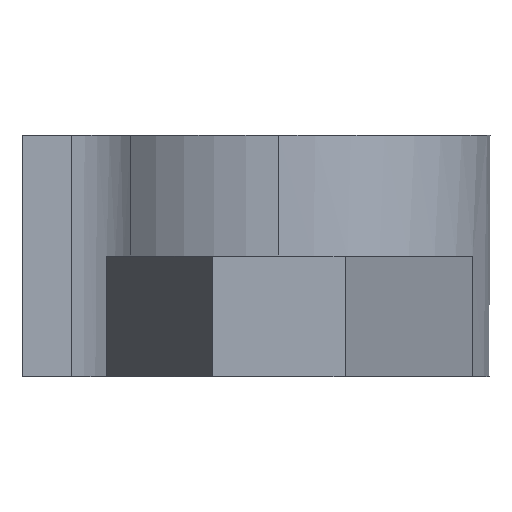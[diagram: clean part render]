
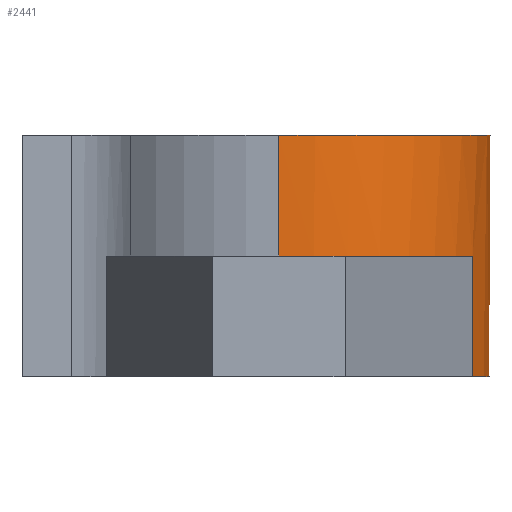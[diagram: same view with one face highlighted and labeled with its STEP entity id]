
A CAD part, left-side view. The second image highlights one B-rep face of the part: STEP entity #2441.
In plain terms, the highlighted cylindrical face has radius 14 mm (diameter 28 mm), a partial arc.
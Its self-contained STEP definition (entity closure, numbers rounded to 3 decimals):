
#45 = PLANE('',#46);
#46 = AXIS2_PLACEMENT_3D('',#47,#48,#49);
#47 = CARTESIAN_POINT('',(0.,3.032,16.));
#48 = DIRECTION('',(0.,0.,1.));
#49 = DIRECTION('',(1.,0.,-0.));
#106 = PLANE('',#107);
#107 = AXIS2_PLACEMENT_3D('',#108,#109,#110);
#108 = CARTESIAN_POINT('',(0.,3.032,0.));
#109 = DIRECTION('',(0.,0.,1.));
#110 = DIRECTION('',(1.,0.,-0.));
#334 = PLANE('',#335);
#335 = AXIS2_PLACEMENT_3D('',#336,#337,#338);
#336 = CARTESIAN_POINT('',(0.,0.,8.));
#337 = DIRECTION('',(0.,0.,1.));
#338 = DIRECTION('',(1.,0.,-0.));
#450 = PLANE('',#451);
#451 = AXIS2_PLACEMENT_3D('',#452,#453,#454);
#452 = CARTESIAN_POINT('',(0.,0.,8.));
#453 = DIRECTION('',(0.,0.,1.));
#454 = DIRECTION('',(1.,0.,-0.));
#490 = EDGE_CURVE('',#491,#493,#495,.T.);
#491 = VERTEX_POINT('',#492);
#492 = CARTESIAN_POINT('',(-14.,0.,16.));
#493 = VERTEX_POINT('',#494);
#494 = CARTESIAN_POINT('',(-14.,0.,8.));
#495 = SURFACE_CURVE('',#496,(#500,#512),.PCURVE_S1.);
#496 = LINE('',#497,#498);
#497 = CARTESIAN_POINT('',(-14.,0.,0.));
#498 = VECTOR('',#499,1.);
#499 = DIRECTION('',(-0.,-0.,-1.));
#500 = PCURVE('',#501,#506);
#501 = CYLINDRICAL_SURFACE('',#502,14.);
#502 = AXIS2_PLACEMENT_3D('',#503,#504,#505);
#503 = CARTESIAN_POINT('',(0.,0.,0.));
#504 = DIRECTION('',(0.,0.,1.));
#505 = DIRECTION('',(1.,0.,-0.));
#506 = DEFINITIONAL_REPRESENTATION('',(#507),#511);
#507 = LINE('',#508,#509);
#508 = CARTESIAN_POINT('',(3.142,0.));
#509 = VECTOR('',#510,1.);
#510 = DIRECTION('',(0.,-1.));
#511 = ( GEOMETRIC_REPRESENTATION_CONTEXT(2) 
PARAMETRIC_REPRESENTATION_CONTEXT() REPRESENTATION_CONTEXT('2D SPACE',''
  ) );
#512 = PCURVE('',#513,#518);
#513 = CYLINDRICAL_SURFACE('',#514,14.);
#514 = AXIS2_PLACEMENT_3D('',#515,#516,#517);
#515 = CARTESIAN_POINT('',(0.,0.,0.));
#516 = DIRECTION('',(0.,0.,1.));
#517 = DIRECTION('',(1.,0.,-0.));
#518 = DEFINITIONAL_REPRESENTATION('',(#519),#523);
#519 = LINE('',#520,#521);
#520 = CARTESIAN_POINT('',(3.142,0.));
#521 = VECTOR('',#522,1.);
#522 = DIRECTION('',(0.,-1.));
#523 = ( GEOMETRIC_REPRESENTATION_CONTEXT(2) 
PARAMETRIC_REPRESENTATION_CONTEXT() REPRESENTATION_CONTEXT('2D SPACE',''
  ) );
#606 = EDGE_CURVE('',#607,#609,#611,.T.);
#607 = VERTEX_POINT('',#608);
#608 = CARTESIAN_POINT('',(14.,0.,8.));
#609 = VERTEX_POINT('',#610);
#610 = CARTESIAN_POINT('',(14.,0.,16.));
#611 = SURFACE_CURVE('',#612,(#616,#628),.PCURVE_S1.);
#612 = LINE('',#613,#614);
#613 = CARTESIAN_POINT('',(14.,0.,0.));
#614 = VECTOR('',#615,1.);
#615 = DIRECTION('',(0.,0.,1.));
#616 = PCURVE('',#617,#622);
#617 = CYLINDRICAL_SURFACE('',#618,14.);
#618 = AXIS2_PLACEMENT_3D('',#619,#620,#621);
#619 = CARTESIAN_POINT('',(0.,0.,0.));
#620 = DIRECTION('',(0.,0.,1.));
#621 = DIRECTION('',(1.,0.,-0.));
#622 = DEFINITIONAL_REPRESENTATION('',(#623),#627);
#623 = LINE('',#624,#625);
#624 = CARTESIAN_POINT('',(0.,0.));
#625 = VECTOR('',#626,1.);
#626 = DIRECTION('',(0.,1.));
#627 = ( GEOMETRIC_REPRESENTATION_CONTEXT(2) 
PARAMETRIC_REPRESENTATION_CONTEXT() REPRESENTATION_CONTEXT('2D SPACE',''
  ) );
#628 = PCURVE('',#513,#629);
#629 = DEFINITIONAL_REPRESENTATION('',(#630),#634);
#630 = LINE('',#631,#632);
#631 = CARTESIAN_POINT('',(6.283,0.));
#632 = VECTOR('',#633,1.);
#633 = DIRECTION('',(0.,1.));
#634 = ( GEOMETRIC_REPRESENTATION_CONTEXT(2) 
PARAMETRIC_REPRESENTATION_CONTEXT() REPRESENTATION_CONTEXT('2D SPACE',''
  ) );
#2441 = ADVANCED_FACE('',(#2442),#513,.T.);
#2442 = FACE_BOUND('',#2443,.T.);
#2443 = EDGE_LOOP('',(#2444,#2445,#2471,#2472,#2496,#2524,#2548,#2576));
#2444 = ORIENTED_EDGE('',*,*,#606,.T.);
#2445 = ORIENTED_EDGE('',*,*,#2446,.T.);
#2446 = EDGE_CURVE('',#609,#491,#2447,.T.);
#2447 = SURFACE_CURVE('',#2448,(#2453,#2460),.PCURVE_S1.);
#2448 = CIRCLE('',#2449,14.);
#2449 = AXIS2_PLACEMENT_3D('',#2450,#2451,#2452);
#2450 = CARTESIAN_POINT('',(0.,0.,16.));
#2451 = DIRECTION('',(0.,0.,-1.));
#2452 = DIRECTION('',(1.,0.,0.));
#2453 = PCURVE('',#513,#2454);
#2454 = DEFINITIONAL_REPRESENTATION('',(#2455),#2459);
#2455 = LINE('',#2456,#2457);
#2456 = CARTESIAN_POINT('',(6.283,16.));
#2457 = VECTOR('',#2458,1.);
#2458 = DIRECTION('',(-1.,0.));
#2459 = ( GEOMETRIC_REPRESENTATION_CONTEXT(2) 
PARAMETRIC_REPRESENTATION_CONTEXT() REPRESENTATION_CONTEXT('2D SPACE',''
  ) );
#2460 = PCURVE('',#45,#2461);
#2461 = DEFINITIONAL_REPRESENTATION('',(#2462),#2470);
#2462 = ( BOUNDED_CURVE() B_SPLINE_CURVE(2,(#2463,#2464,#2465,#2466,
#2467,#2468,#2469),.UNSPECIFIED.,.T.,.F.) B_SPLINE_CURVE_WITH_KNOTS((1,2
    ,2,2,2,1),(-2.094,0.,2.094,4.189,
6.283,8.378),.UNSPECIFIED.) CURVE() 
GEOMETRIC_REPRESENTATION_ITEM() RATIONAL_B_SPLINE_CURVE((1.,0.5,1.,0.5,
1.,0.5,1.)) REPRESENTATION_ITEM('') );
#2463 = CARTESIAN_POINT('',(14.,-3.032));
#2464 = CARTESIAN_POINT('',(14.,-27.281));
#2465 = CARTESIAN_POINT('',(-7.,-15.157));
#2466 = CARTESIAN_POINT('',(-28.,-3.032));
#2467 = CARTESIAN_POINT('',(-7.,9.092));
#2468 = CARTESIAN_POINT('',(14.,21.216));
#2469 = CARTESIAN_POINT('',(14.,-3.032));
#2470 = ( GEOMETRIC_REPRESENTATION_CONTEXT(2) 
PARAMETRIC_REPRESENTATION_CONTEXT() REPRESENTATION_CONTEXT('2D SPACE',''
  ) );
#2471 = ORIENTED_EDGE('',*,*,#490,.T.);
#2472 = ORIENTED_EDGE('',*,*,#2473,.T.);
#2473 = EDGE_CURVE('',#493,#2474,#2476,.T.);
#2474 = VERTEX_POINT('',#2475);
#2475 = CARTESIAN_POINT('',(-5.58,-12.84,8.));
#2476 = SURFACE_CURVE('',#2477,(#2482,#2489),.PCURVE_S1.);
#2477 = CIRCLE('',#2478,14.);
#2478 = AXIS2_PLACEMENT_3D('',#2479,#2480,#2481);
#2479 = CARTESIAN_POINT('',(0.,0.,8.));
#2480 = DIRECTION('',(0.,0.,1.));
#2481 = DIRECTION('',(1.,0.,-0.));
#2482 = PCURVE('',#513,#2483);
#2483 = DEFINITIONAL_REPRESENTATION('',(#2484),#2488);
#2484 = LINE('',#2485,#2486);
#2485 = CARTESIAN_POINT('',(0.,8.));
#2486 = VECTOR('',#2487,1.);
#2487 = DIRECTION('',(1.,0.));
#2488 = ( GEOMETRIC_REPRESENTATION_CONTEXT(2) 
PARAMETRIC_REPRESENTATION_CONTEXT() REPRESENTATION_CONTEXT('2D SPACE',''
  ) );
#2489 = PCURVE('',#334,#2490);
#2490 = DEFINITIONAL_REPRESENTATION('',(#2491),#2495);
#2491 = CIRCLE('',#2492,14.);
#2492 = AXIS2_PLACEMENT_2D('',#2493,#2494);
#2493 = CARTESIAN_POINT('',(0.,0.));
#2494 = DIRECTION('',(1.,0.));
#2495 = ( GEOMETRIC_REPRESENTATION_CONTEXT(2) 
PARAMETRIC_REPRESENTATION_CONTEXT() REPRESENTATION_CONTEXT('2D SPACE',''
  ) );
#2496 = ORIENTED_EDGE('',*,*,#2497,.F.);
#2497 = EDGE_CURVE('',#2498,#2474,#2500,.T.);
#2498 = VERTEX_POINT('',#2499);
#2499 = CARTESIAN_POINT('',(-5.58,-12.84,0.));
#2500 = SURFACE_CURVE('',#2501,(#2505,#2512),.PCURVE_S1.);
#2501 = LINE('',#2502,#2503);
#2502 = CARTESIAN_POINT('',(-5.58,-12.84,4.));
#2503 = VECTOR('',#2504,1.);
#2504 = DIRECTION('',(0.,0.,1.));
#2505 = PCURVE('',#513,#2506);
#2506 = DEFINITIONAL_REPRESENTATION('',(#2507),#2511);
#2507 = LINE('',#2508,#2509);
#2508 = CARTESIAN_POINT('',(4.302,4.));
#2509 = VECTOR('',#2510,1.);
#2510 = DIRECTION('',(0.,1.));
#2511 = ( GEOMETRIC_REPRESENTATION_CONTEXT(2) 
PARAMETRIC_REPRESENTATION_CONTEXT() REPRESENTATION_CONTEXT('2D SPACE',''
  ) );
#2512 = PCURVE('',#2513,#2518);
#2513 = PLANE('',#2514);
#2514 = AXIS2_PLACEMENT_3D('',#2515,#2516,#2517);
#2515 = CARTESIAN_POINT('',(-15.29,-8.62,0.));
#2516 = DIRECTION('',(-0.399,-0.917,0.));
#2517 = DIRECTION('',(0.917,-0.399,0.));
#2518 = DEFINITIONAL_REPRESENTATION('',(#2519),#2523);
#2519 = LINE('',#2520,#2521);
#2520 = CARTESIAN_POINT('',(10.587,4.));
#2521 = VECTOR('',#2522,1.);
#2522 = DIRECTION('',(0.,1.));
#2523 = ( GEOMETRIC_REPRESENTATION_CONTEXT(2) 
PARAMETRIC_REPRESENTATION_CONTEXT() REPRESENTATION_CONTEXT('2D SPACE',''
  ) );
#2524 = ORIENTED_EDGE('',*,*,#2525,.T.);
#2525 = EDGE_CURVE('',#2498,#2526,#2528,.T.);
#2526 = VERTEX_POINT('',#2527);
#2527 = CARTESIAN_POINT('',(5.58,-12.84,0.));
#2528 = SURFACE_CURVE('',#2529,(#2534,#2541),.PCURVE_S1.);
#2529 = CIRCLE('',#2530,14.);
#2530 = AXIS2_PLACEMENT_3D('',#2531,#2532,#2533);
#2531 = CARTESIAN_POINT('',(0.,0.,0.));
#2532 = DIRECTION('',(0.,0.,1.));
#2533 = DIRECTION('',(1.,0.,-0.));
#2534 = PCURVE('',#513,#2535);
#2535 = DEFINITIONAL_REPRESENTATION('',(#2536),#2540);
#2536 = LINE('',#2537,#2538);
#2537 = CARTESIAN_POINT('',(0.,0.));
#2538 = VECTOR('',#2539,1.);
#2539 = DIRECTION('',(1.,0.));
#2540 = ( GEOMETRIC_REPRESENTATION_CONTEXT(2) 
PARAMETRIC_REPRESENTATION_CONTEXT() REPRESENTATION_CONTEXT('2D SPACE',''
  ) );
#2541 = PCURVE('',#106,#2542);
#2542 = DEFINITIONAL_REPRESENTATION('',(#2543),#2547);
#2543 = CIRCLE('',#2544,14.);
#2544 = AXIS2_PLACEMENT_2D('',#2545,#2546);
#2545 = CARTESIAN_POINT('',(0.,-3.032));
#2546 = DIRECTION('',(1.,0.));
#2547 = ( GEOMETRIC_REPRESENTATION_CONTEXT(2) 
PARAMETRIC_REPRESENTATION_CONTEXT() REPRESENTATION_CONTEXT('2D SPACE',''
  ) );
#2548 = ORIENTED_EDGE('',*,*,#2549,.T.);
#2549 = EDGE_CURVE('',#2526,#2550,#2552,.T.);
#2550 = VERTEX_POINT('',#2551);
#2551 = CARTESIAN_POINT('',(5.58,-12.84,8.));
#2552 = SURFACE_CURVE('',#2553,(#2557,#2564),.PCURVE_S1.);
#2553 = LINE('',#2554,#2555);
#2554 = CARTESIAN_POINT('',(5.58,-12.84,4.));
#2555 = VECTOR('',#2556,1.);
#2556 = DIRECTION('',(0.,0.,1.));
#2557 = PCURVE('',#513,#2558);
#2558 = DEFINITIONAL_REPRESENTATION('',(#2559),#2563);
#2559 = LINE('',#2560,#2561);
#2560 = CARTESIAN_POINT('',(5.122,4.));
#2561 = VECTOR('',#2562,1.);
#2562 = DIRECTION('',(0.,1.));
#2563 = ( GEOMETRIC_REPRESENTATION_CONTEXT(2) 
PARAMETRIC_REPRESENTATION_CONTEXT() REPRESENTATION_CONTEXT('2D SPACE',''
  ) );
#2564 = PCURVE('',#2565,#2570);
#2565 = PLANE('',#2566);
#2566 = AXIS2_PLACEMENT_3D('',#2567,#2568,#2569);
#2567 = CARTESIAN_POINT('',(15.29,-8.62,0.));
#2568 = DIRECTION('',(0.399,-0.917,0.));
#2569 = DIRECTION('',(0.917,0.399,0.));
#2570 = DEFINITIONAL_REPRESENTATION('',(#2571),#2575);
#2571 = LINE('',#2572,#2573);
#2572 = CARTESIAN_POINT('',(-10.587,4.));
#2573 = VECTOR('',#2574,1.);
#2574 = DIRECTION('',(0.,1.));
#2575 = ( GEOMETRIC_REPRESENTATION_CONTEXT(2) 
PARAMETRIC_REPRESENTATION_CONTEXT() REPRESENTATION_CONTEXT('2D SPACE',''
  ) );
#2576 = ORIENTED_EDGE('',*,*,#2577,.T.);
#2577 = EDGE_CURVE('',#2550,#607,#2578,.T.);
#2578 = SURFACE_CURVE('',#2579,(#2584,#2591),.PCURVE_S1.);
#2579 = CIRCLE('',#2580,14.);
#2580 = AXIS2_PLACEMENT_3D('',#2581,#2582,#2583);
#2581 = CARTESIAN_POINT('',(0.,0.,8.));
#2582 = DIRECTION('',(0.,0.,1.));
#2583 = DIRECTION('',(1.,0.,-0.));
#2584 = PCURVE('',#513,#2585);
#2585 = DEFINITIONAL_REPRESENTATION('',(#2586),#2590);
#2586 = LINE('',#2587,#2588);
#2587 = CARTESIAN_POINT('',(0.,8.));
#2588 = VECTOR('',#2589,1.);
#2589 = DIRECTION('',(1.,0.));
#2590 = ( GEOMETRIC_REPRESENTATION_CONTEXT(2) 
PARAMETRIC_REPRESENTATION_CONTEXT() REPRESENTATION_CONTEXT('2D SPACE',''
  ) );
#2591 = PCURVE('',#450,#2592);
#2592 = DEFINITIONAL_REPRESENTATION('',(#2593),#2597);
#2593 = CIRCLE('',#2594,14.);
#2594 = AXIS2_PLACEMENT_2D('',#2595,#2596);
#2595 = CARTESIAN_POINT('',(0.,0.));
#2596 = DIRECTION('',(1.,0.));
#2597 = ( GEOMETRIC_REPRESENTATION_CONTEXT(2) 
PARAMETRIC_REPRESENTATION_CONTEXT() REPRESENTATION_CONTEXT('2D SPACE',''
  ) );
